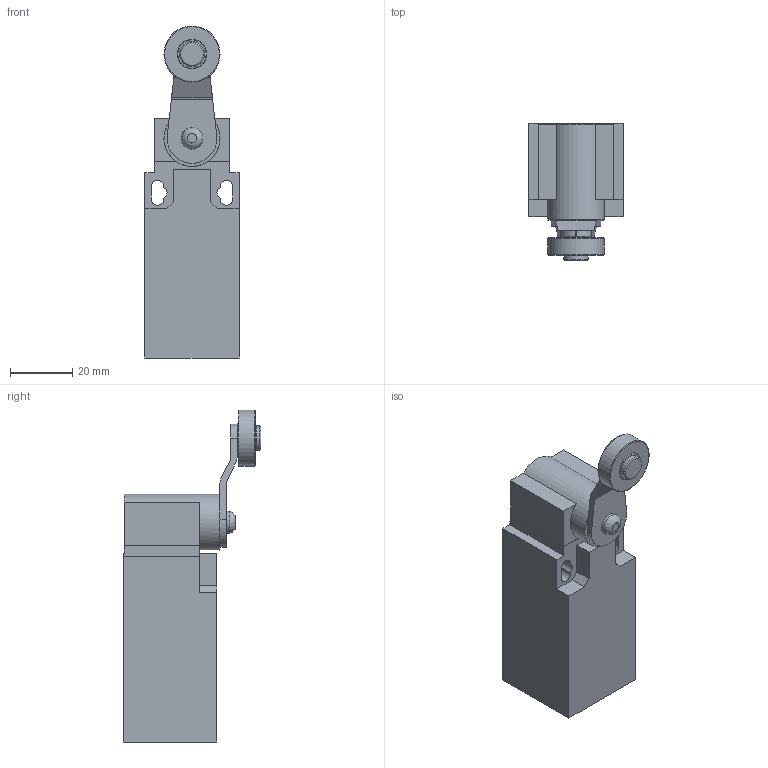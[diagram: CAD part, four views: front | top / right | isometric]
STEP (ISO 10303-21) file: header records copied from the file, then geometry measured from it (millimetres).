
FILE_DESCRIPTION((''),'2;1');
FILE_NAME('C:\Workarea\Disegni\Comepi\Catalogo\Stp\Finecorsa\AP1_T41.iam.step','2011-07-22T16:14:58',(''),(''),'Autodesk Inventor 2012','Autodesk Inventor 2012','');
FILE_SCHEMA(('AUTOMOTIVE_DESIGN { 1 0 10303 214 1 1 1 1 }'));
Length unit declared in the file: millimetre
Products named in the file (5): AP1_T41; AP1; T41; T41_1; T41_2
Assembly tree (4 placements, depth 3):
  AP1_T41
    AP1
    T41
      T41_1
      T41_2
Bounding box: 30.3 x 44.25 x 106.57 mm (x, y, z)
Volume: 61903 mm3; surface area: 16196.6 mm2
Topology: 3 solids, 3 shells, 81 faces, 193 edges, 126 vertices
Faces by surface type: plane 53, cylinder 20, torus 4, cone 3, bspline 1
Full cylindrical faces by diameter (mm): 6 x2, 7 x1, 8 x1, 18 x2, 20.4 x1
Entity records: 2501 total; most frequent: CARTESIAN_POINT 436, DIRECTION 408, ORIENTED_EDGE 354, EDGE_CURVE 177, AXIS2_PLACEMENT_3D 142, VERTEX_POINT 125, VECTOR 124, LINE 124
